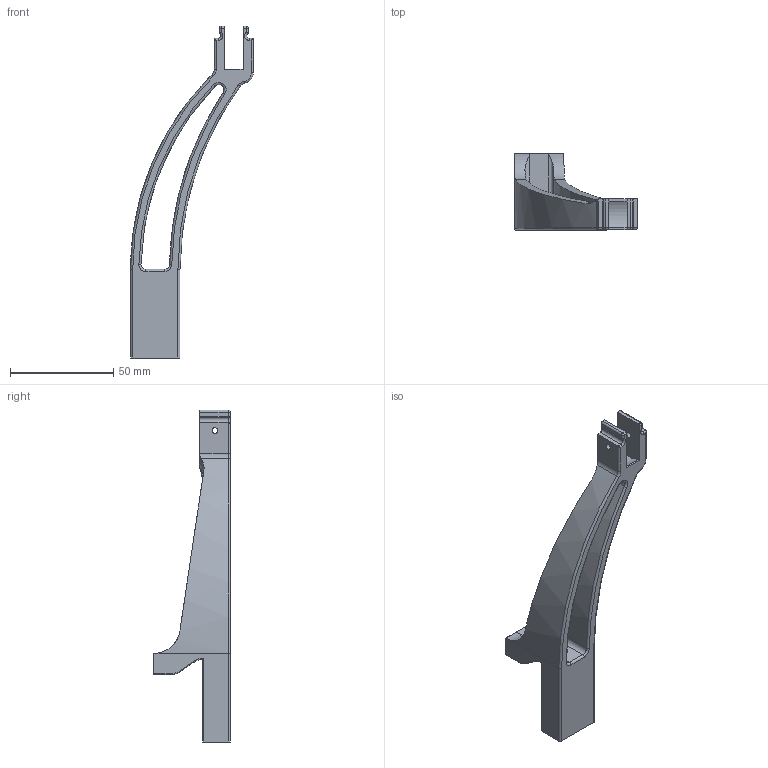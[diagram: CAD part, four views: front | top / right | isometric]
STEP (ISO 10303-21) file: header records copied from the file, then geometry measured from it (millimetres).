
FILE_DESCRIPTION (( 'STEP AP203' ), '1' );
FILE_NAME ('DBP_UPPER_ROLLER_GUIDE_r1.STEP', '2018-11-08T15:17:48', ( '' ), ( '' ), 'SwSTEP 2.0', 'SolidWorks 2015', '' );
FILE_SCHEMA (( 'CONFIG_CONTROL_DESIGN' ));
Length unit declared in the file: inch
Products named in the file (1): DBP_UPPER_ROLLER_GUIDE_r1
Bounding box: 59.55 x 37.2 x 161 mm (x, y, z)
Volume: 29899.8 mm3; surface area: 18194.5 mm2
Topology: 1 solids, 1 shells, 140 faces, 368 edges, 225 vertices
Faces by surface type: cylinder 63, plane 46, torus 20, bspline 5, sphere 4, cone 2
Entity records: 4717 total; most frequent: CARTESIAN_POINT 1221, ORIENTED_EDGE 728, DIRECTION 727, EDGE_CURVE 364, AXIS2_PLACEMENT_3D 269, VERTEX_POINT 225, LINE 189, VECTOR 189
